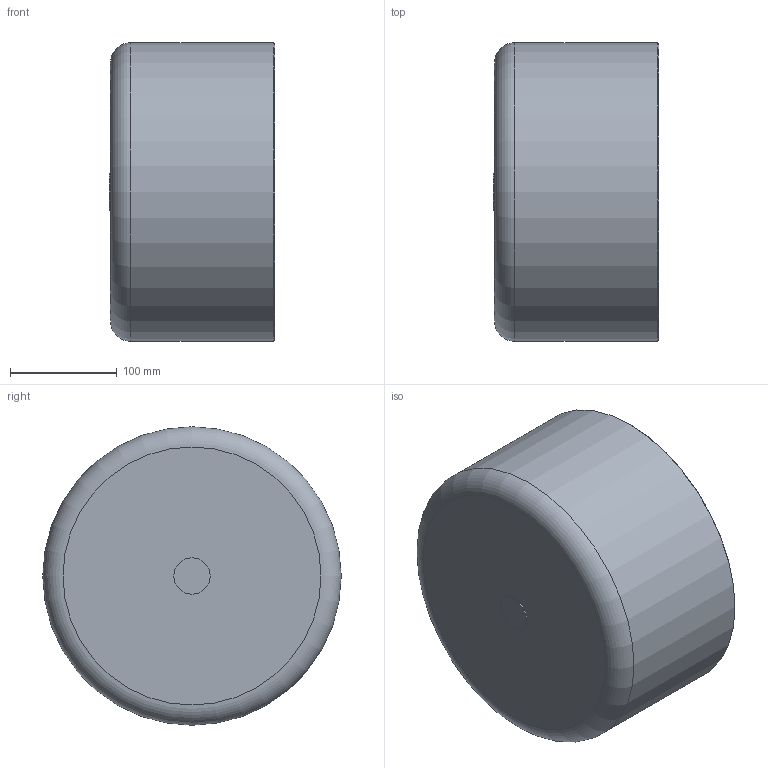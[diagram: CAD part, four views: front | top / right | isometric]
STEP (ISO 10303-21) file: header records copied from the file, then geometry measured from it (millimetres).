
FILE_DESCRIPTION(/* description */ ('Unknown'),/* implementation_level */ '2;1');
FILE_NAME(/* name */ 'CAP280C',/* time_stamp */ '2021-02-04T10:12:52+01:00',/* author */ ('Unknown'),/* organization */ ('Unknown'),/* preprocessor_version */ 'ST-DEVELOPER v16.7',/* originating_system */ 'Solid Edge',/* authorisation */ 'Unknown');
FILE_SCHEMA (('AUTOMOTIVE_DESIGN {1 0 10303 214 3 1 1}'));
Length unit declared in the file: millimetre
Products named in the file (1): CAP280C
Bounding box: 155 x 280 x 280 mm (x, y, z)
Volume: 4351844.5 mm3; surface area: 336937.8 mm2
Topology: 1 solids, 1 shells, 10 faces, 16 edges, 10 vertices
Faces by surface type: plane 4, cylinder 3, torus 2, cone 1
Full cylindrical faces by diameter (mm): 34 x1, 229.2 x1, 280 x1
Entity records: 224 total; most frequent: DIRECTION 40, CARTESIAN_POINT 29, AXIS2_PLACEMENT_3D 20, ORIENTED_EDGE 18, EDGE_LOOP 18, FACE_BOUND 18, ADVANCED_FACE 10, EDGE_CURVE 9
